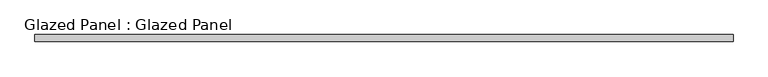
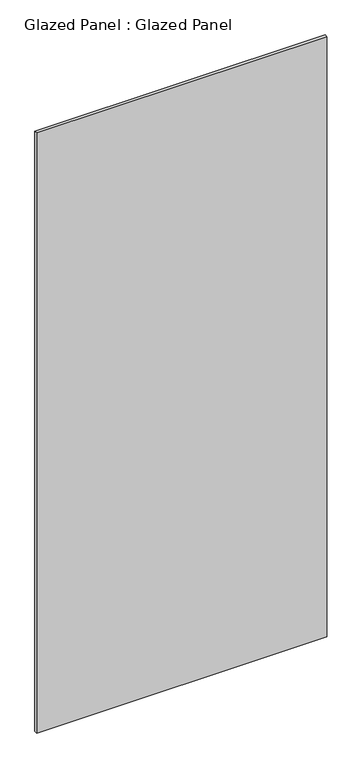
"""IFC4 building model written with IfcOpenShell, lengths in millimetres: plate geometry, Glazed Panel : Glazed Panel."""

from ifc_helpers import new_model, si_unit, origin, origin_with_axes, place, context, project, spatial, polyline, outline, extrude, source, transform, mapped, element, save


def glazed_panel_glazed_panel_a34ef34b(model_context):
    return source(origin(), model_context, "Body", "SweptSolid", [
        extrude(outline(polyline([(1255.0622947, 38.1), (-1255.0622947, 38.1), (-1255.0622947, 63.5), (1255.0622947, 63.5), (1255.0622947, 38.1)])), origin_with_axes(), (0.0, 0.0, 1.0), 5486.4),
    ])


if __name__ == "__main__":
    model = new_model("IFC4")
    model_context = context("Model", 3, world=origin())
    ifc_project = project(units=[si_unit("LENGTHUNIT", "METRE", prefix="MILLI")], contexts=[model_context])
    site = spatial("IfcSite", under=ifc_project)
    building = spatial("IfcBuilding", under=site)
    placement = place(None, origin())
    glazed_panel_glazed_panel_shape = glazed_panel_glazed_panel_a34ef34b(model_context)
    element("IfcPlate", 1, ObjectType="Glazed Panel : Glazed Panel", at=placement, inside=building, context=model_context, shape_type="MappedRepresentation", body=[
        mapped(glazed_panel_glazed_panel_shape, transform((0.0, 0.0, 0.0), x_axis=(1.0, 0.0, 0.0), y_axis=(0.0, 1.0, 0.0), z_axis=(0.0, 0.0, 1.0))),
    ])
    save(model, "model.ifc")
